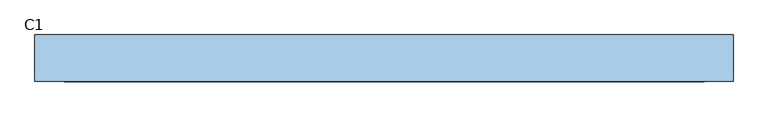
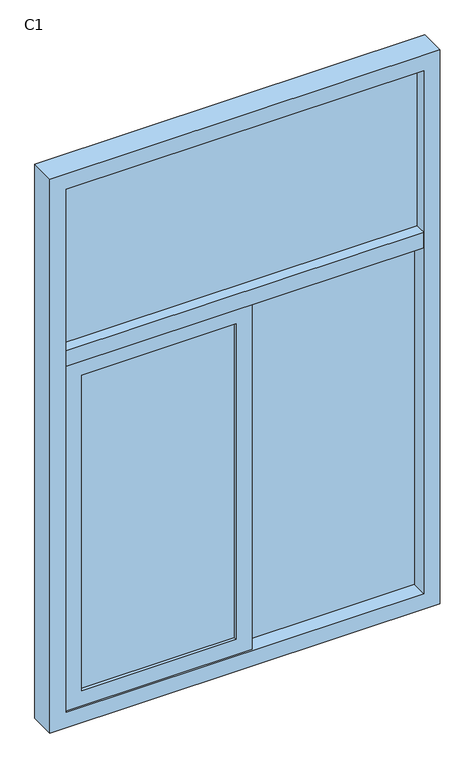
"""IFC4 building model written with IfcOpenShell, lengths in millimetres: window geometry, 组合窗 - 双层单列(固定+推拉) : C1."""

from ifc_helpers import new_model, si_unit, frame, origin, place, context, project, spatial, polyline, outline, extrude, source, transform, mapped, element, save


def c1_54542c8d(model_context):
    return source(origin(), model_context, "Body", "SweptSolid", [
        extrude(outline(polyline([(550.0, 20.0), (-550.0, 20.0), (-550.0, 30.0), (550.0, 30.0), (550.0, 20.0)])), frame((0.0, 0.0, 2225.0), z_axis=(0.0, 0.0, 1.0), x_axis=(1.0, 0.0, 0.0)), (0.0, 0.0, 1.0), 525.0),
        extrude(outline(polyline([(-500.0, 10.0), (-25.0, 10.0), (-25.0, 0.0), (-500.0, 0.0), (-500.0, 10.0)])), frame((0.0, 0.0, 1100.0), z_axis=(0.0, 0.0, 1.0), x_axis=(1.0, 0.0, 0.0)), (0.0, 0.0, 1.0), 1025.0),
        extrude(outline(polyline([(25.0, 45.0), (550.0, 45.0), (550.0, 35.0), (25.0, 35.0), (25.0, 45.0)])), frame((0.0, 0.0, 1050.0), z_axis=(0.0, 0.0, 1.0), x_axis=(1.0, 0.0, 0.0)), (0.0, 0.0, 1.0), 1125.0),
        extrude(outline(polyline([(25.0, 55.0), (25.0, 25.0), (-25.0, 25.0), (-25.0, 55.0), (25.0, 55.0)])), frame((0.0, 0.0, 1050.0), z_axis=(0.0, 0.0, 1.0), x_axis=(1.0, 0.0, 0.0)), (0.0, 0.0, 1.0), 1125.0),
        extrude(outline(polyline([(2175.0, 25.0), (2175.0, -550.0), (1050.0, -550.0), (1050.0, 25.0), (2175.0, 25.0)]), holes=[polyline([(1100.0, -25.0), (1100.0, -500.0), (2125.0, -500.0), (2125.0, -25.0), (1100.0, -25.0)])]), frame((0.0, -10.0, 0.0), z_axis=(0.0, 1.0, 0.0), x_axis=(0.0, 0.0, 1.0)), (0.0, 0.0, 1.0), 30.0),
        extrude(outline(polyline([(-550.0, 65.0), (550.0, 65.0), (550.0, -15.0), (-550.0, -15.0), (-550.0, 65.0)])), frame((0.0, 0.0, 2175.0), z_axis=(0.0, 0.0, 1.0), x_axis=(1.0, 0.0, 0.0)), (0.0, 0.0, 1.0), 50.0),
        extrude(outline(polyline([(2800.0, -600.0), (1000.0, -600.0), (1000.0, 600.0), (2800.0, 600.0), (2800.0, -600.0)]), holes=[polyline([(2750.0, 550.0), (1050.0, 550.0), (1050.0, -550.0), (2750.0, -550.0), (2750.0, 550.0)])]), frame((0.0, -15.0, 0.0), z_axis=(0.0, 1.0, 0.0), x_axis=(0.0, 0.0, 1.0)), (0.0, 0.0, 1.0), 80.0),
    ])


if __name__ == "__main__":
    model = new_model("IFC4")
    model_context = context("Model", 3, world=origin())
    ifc_project = project(units=[si_unit("LENGTHUNIT", "METRE", prefix="MILLI")], contexts=[model_context])
    site = spatial("IfcSite", under=ifc_project)
    building = spatial("IfcBuilding", under=site)
    placement = place(None, origin())
    c1_shape = c1_54542c8d(model_context)
    element("IfcWindow", 1, ObjectType="组合窗 - 双层单列(固定+推拉) : C1", at=placement, inside=building, context=model_context, shape_type="MappedRepresentation", body=[
        mapped(c1_shape, transform((0.0, 0.0, 0.0), x_axis=(1.0, 0.0, 0.0), y_axis=(0.0, 1.0, 0.0), z_axis=(0.0, 0.0, 1.0))),
    ])
    save(model, "model.ifc")
